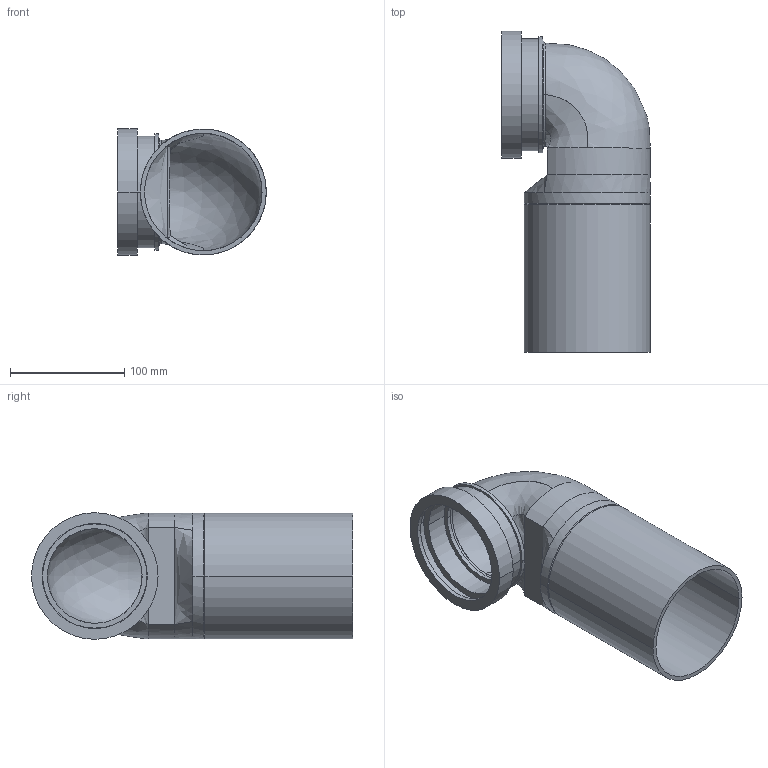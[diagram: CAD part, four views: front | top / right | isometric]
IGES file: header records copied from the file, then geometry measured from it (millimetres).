
Global section: file name: No Iges File Name specified; native system: Autodesk Inventor 2011; preprocessor: AutoDesk Inventor Iges Exporter R2011; author: ML; date: 20110317.231539; units: millimetre
Bounding box: 130.2 x 281.5 x 111 mm (x, y, z)
Volume: 364093.2 mm3; surface area: 208512.8 mm2
Topology: 3 solids, 3 shells, 62 faces, 147 edges, 91 vertices
Faces by surface type: bspline 18, plane 14, cylinder 13, revolution 13, cone 4
